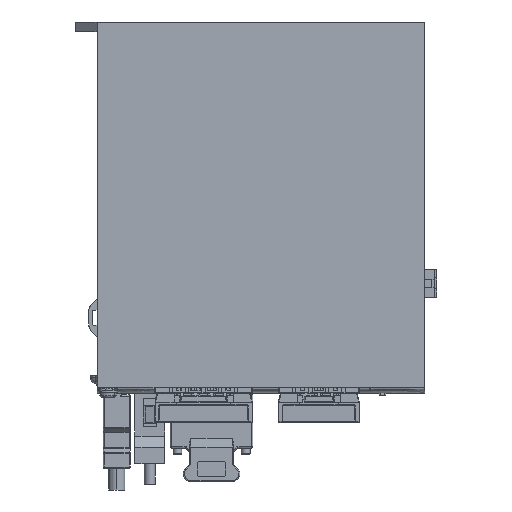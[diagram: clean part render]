
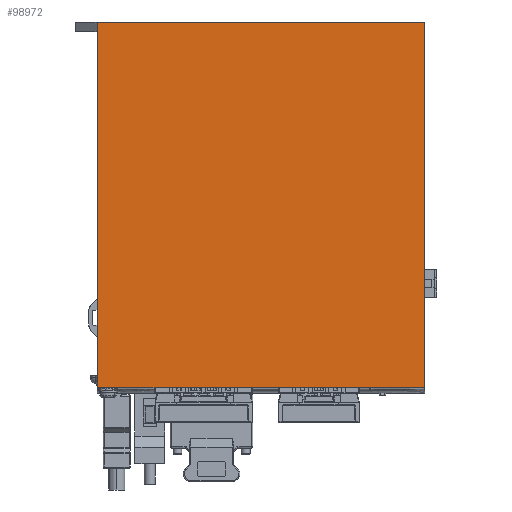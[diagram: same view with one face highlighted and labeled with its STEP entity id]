
A CAD part, front view. The second image highlights one B-rep face of the part: STEP entity #98972.
In plain terms, the highlighted planar face has unit normal (0, -1, 0).
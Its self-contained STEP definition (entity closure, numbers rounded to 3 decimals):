
#6010 = DIRECTION ( 'NONE',  ( 0., 0., -1. ) ) ;
#6695 = VECTOR ( 'NONE', #129083, 1000. ) ;
#11957 = VERTEX_POINT ( 'NONE', #43779 ) ;
#12897 = CARTESIAN_POINT ( 'NONE',  ( -150., 0., -79.3 ) ) ;
#14595 = ORIENTED_EDGE ( 'NONE', *, *, #58361, .T. ) ;
#14897 = ORIENTED_EDGE ( 'NONE', *, *, #60184, .T. ) ;
#16693 = DIRECTION ( 'NONE',  ( 0., 0., -1. ) ) ;
#19213 = CARTESIAN_POINT ( 'NONE',  ( -140., 0., -79.3 ) ) ;
#19909 = EDGE_CURVE ( 'NONE', #88984, #110427, #71751, .T. ) ;
#19913 = EDGE_LOOP ( 'NONE', ( #14897, #127710, #40386, #81459, #14595, #121425 ) ) ;
#23334 = LINE ( 'NONE', #51610, #158790 ) ;
#28185 = VERTEX_POINT ( 'NONE', #145873 ) ;
#40386 = ORIENTED_EDGE ( 'NONE', *, *, #160469, .F. ) ;
#43779 = CARTESIAN_POINT ( 'NONE',  ( 0., 0., -79.5 ) ) ;
#47983 = AXIS2_PLACEMENT_3D ( 'NONE', #82294, #94531, #6010 ) ;
#51610 = CARTESIAN_POINT ( 'NONE',  ( -150., 0., -79.5 ) ) ;
#54514 = LINE ( 'NONE', #128532, #6695 ) ;
#58340 = VECTOR ( 'NONE', #16693, 1000. ) ;
#58361 = EDGE_CURVE ( 'NONE', #88984, #28185, #23334, .T. ) ;
#60184 = EDGE_CURVE ( 'NONE', #91588, #125711, #54514, .T. ) ;
#68435 = VECTOR ( 'NONE', #73793, 1000. ) ;
#69019 = CARTESIAN_POINT ( 'NONE',  ( 0., 0., -79.5 ) ) ;
#69475 = CARTESIAN_POINT ( 'NONE',  ( -150., 0., 88. ) ) ;
#71751 = LINE ( 'NONE', #123468, #165331 ) ;
#73793 = DIRECTION ( 'NONE',  ( 1., 0., 0. ) ) ;
#76794 = VECTOR ( 'NONE', #88658, 1000. ) ;
#81459 = ORIENTED_EDGE ( 'NONE', *, *, #19909, .F. ) ;
#82294 = CARTESIAN_POINT ( 'NONE',  ( -150., 0., -79.5 ) ) ;
#88658 = DIRECTION ( 'NONE',  ( -1., 0., 0. ) ) ;
#88984 = VERTEX_POINT ( 'NONE', #69475 ) ;
#89387 = CARTESIAN_POINT ( 'NONE',  ( -150., 0., -79.5 ) ) ;
#91210 = CARTESIAN_POINT ( 'NONE',  ( -140., 0., -79.5 ) ) ;
#91588 = VERTEX_POINT ( 'NONE', #19213 ) ;
#94531 = DIRECTION ( 'NONE',  ( 0., -1., 0. ) ) ;
#98972 = ADVANCED_FACE ( 'NONE', ( #154643 ), #158544, .T. ) ;
#100787 = LINE ( 'NONE', #12897, #76794 ) ;
#110427 = VERTEX_POINT ( 'NONE', #129692 ) ;
#121425 = ORIENTED_EDGE ( 'NONE', *, *, #158052, .F. ) ;
#122371 = DIRECTION ( 'NONE',  ( 1., 0., 0. ) ) ;
#123468 = CARTESIAN_POINT ( 'NONE',  ( -150., 0., 88. ) ) ;
#124436 = LINE ( 'NONE', #89387, #68435 ) ;
#125711 = VERTEX_POINT ( 'NONE', #91210 ) ;
#127710 = ORIENTED_EDGE ( 'NONE', *, *, #157407, .T. ) ;
#128186 = LINE ( 'NONE', #69019, #58340 ) ;
#128532 = CARTESIAN_POINT ( 'NONE',  ( -140., 0., -79.3 ) ) ;
#129083 = DIRECTION ( 'NONE',  ( 0., 0., -1. ) ) ;
#129692 = CARTESIAN_POINT ( 'NONE',  ( 0., 0., 88. ) ) ;
#140680 = DIRECTION ( 'NONE',  ( 0., 0., -1. ) ) ;
#145873 = CARTESIAN_POINT ( 'NONE',  ( -150., 0., -79.3 ) ) ;
#154643 = FACE_OUTER_BOUND ( 'NONE', #19913, .T. ) ;
#157407 = EDGE_CURVE ( 'NONE', #125711, #11957, #124436, .T. ) ;
#158052 = EDGE_CURVE ( 'NONE', #91588, #28185, #100787, .T. ) ;
#158544 = PLANE ( 'NONE',  #47983 ) ;
#158790 = VECTOR ( 'NONE', #140680, 1000. ) ;
#160469 = EDGE_CURVE ( 'NONE', #110427, #11957, #128186, .T. ) ;
#165331 = VECTOR ( 'NONE', #122371, 1000. ) ;
